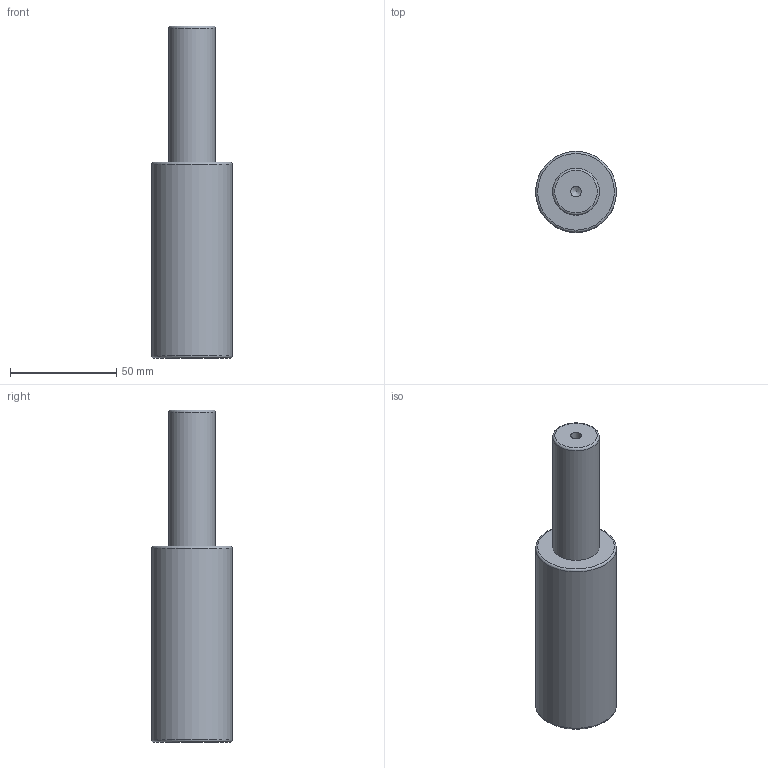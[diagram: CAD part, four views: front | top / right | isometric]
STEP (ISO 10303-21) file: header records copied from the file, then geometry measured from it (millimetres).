
FILE_DESCRIPTION(/* description */ (''),/* implementation_level */ '2;1');
FILE_NAME(/* name */ 'NV5-SMLX.38x63.stp',/* time_stamp */ '2018-08-31T16:08:35+02:00',/* author */ (''),/* organization */ (''),/* preprocessor_version */ 'ST-DEVELOPER v16',/* originating_system */ 'SIEMENS PLM Software NX 10.0',/* authorisation */ '');
FILE_SCHEMA (('AUTOMOTIVE_DESIGN { 1 0 10303 214 3 1 1 1 }'));
Length unit declared in the file: millimetre
Products named in the file (1): NV5-SMLX.38x63
Bounding box: 38 x 38 x 156 mm (x, y, z)
Volume: 127770.3 mm3; surface area: 18065 mm2
Topology: 1 solids, 1 shells, 12 faces, 24 edges, 15 vertices
Faces by surface type: cylinder 4, torus 3, plane 3, cone 2
Full cylindrical faces by diameter (mm): 5 x1, 6.8 x1, 22 x1, 38 x1
Entity records: 266 total; most frequent: DIRECTION 48, CARTESIAN_POINT 37, FACE_BOUND 24, AXIS2_PLACEMENT_3D 24, EDGE_LOOP 22, ORIENTED_EDGE 22, VERTEX_POINT 13, ADVANCED_FACE 12
